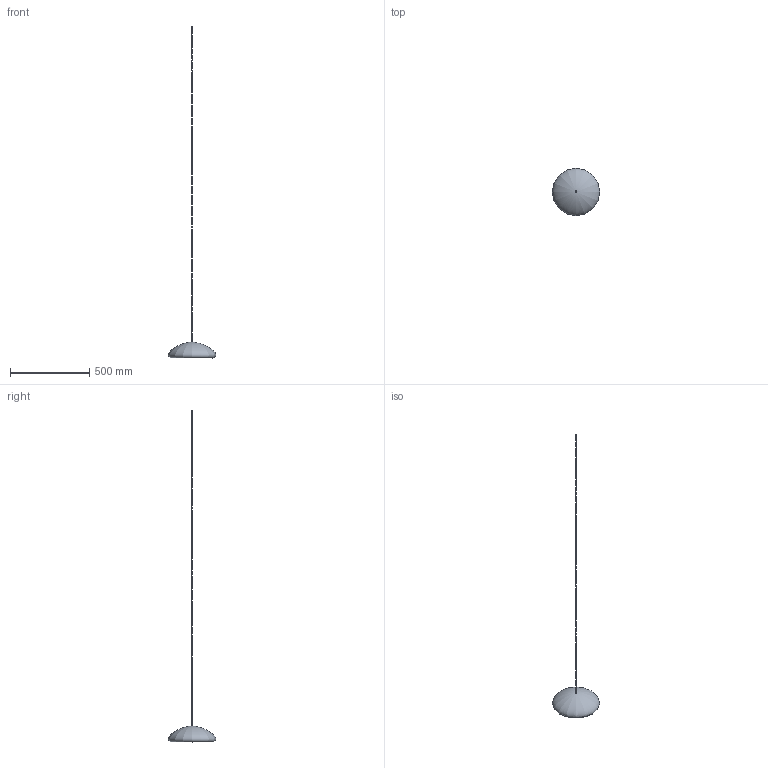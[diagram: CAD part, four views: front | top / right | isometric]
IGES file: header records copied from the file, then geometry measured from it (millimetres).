
Global section: file name: /Users/064_p/Desktop/3d data for homepage/BELLY30 P.igs; native system: Rhinoceros ( Jul  7 2025 ); preprocessor: Trout Lake IGES 012 Jul  7 2025; date: 260805.081820; units: millimetre
Bounding box: 299.89 x 299.9 x 2099.78 mm (x, y, z)
Surface area: 231474.6 mm2 (no closed solid volume)
Topology: 0 solids, 0 shells, 6 faces, 29 edges, 26 vertices
Faces by surface type: bspline 6
